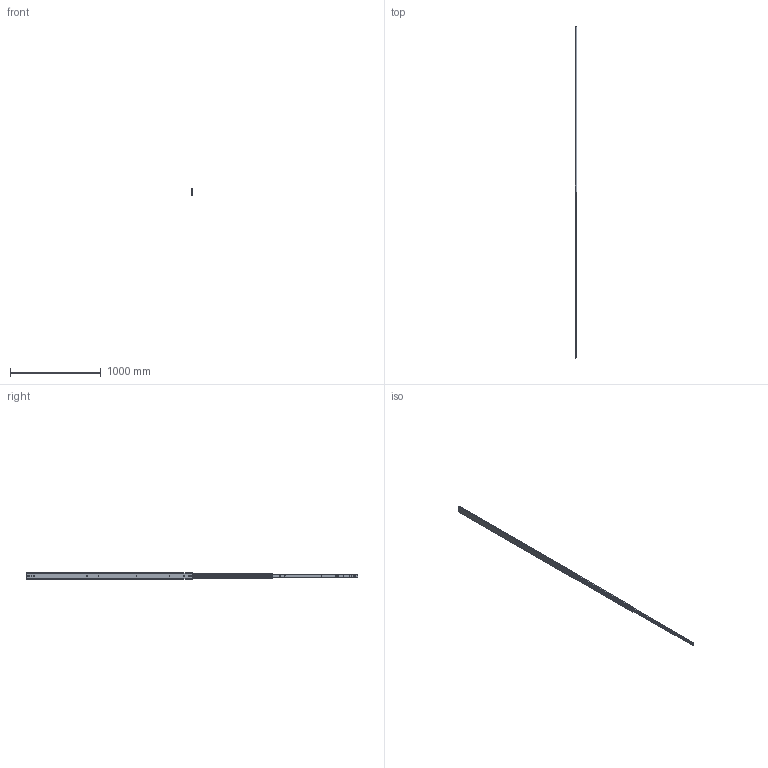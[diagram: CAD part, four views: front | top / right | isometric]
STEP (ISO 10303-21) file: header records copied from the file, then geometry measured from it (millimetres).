
FILE_DESCRIPTION(/* description */ ('Unknown'),/* implementation_level */ '2;1');
FILE_NAME(/* name */ '76J01-72 open',/* time_stamp */ '2024-07-30T15:48:30+08:00',/* author */ ('Unknown'),/* organization */ ('Unknown'),/* preprocessor_version */ 'ST-DEVELOPER v18.104',/* originating_system */ 'Solid Edge',/* authorisation */ 'Unknown');
FILE_SCHEMA (('AUTOMOTIVE_DESIGN {1 0 10303 214 3 1 1}'));
Length unit declared in the file: millimetre
Products named in the file (4): 76J01-72 open; 76J01 72 inch 內_0; 76J01 72 吋中_; 76J01 72 ¦Tà
Assembly tree (3 placements, depth 2):
  76J01-72 open
    76J01 72 inch 內_0
    76J01 72 吋中_
    76J01 72 ¦Tà
Bounding box: 19.3 x 3656.9 x 76.75 mm (x, y, z)
Volume: 1448788.7 mm3; surface area: 900005.5 mm2
Topology: 3 solids, 3 shells, 196 faces, 606 edges, 410 vertices
Faces by surface type: plane 104, cylinder 92
Full cylindrical faces by diameter (mm): 5.2 x16, 7.1 x2
Entity records: 7179 total; most frequent: CARTESIAN_POINT 1168, DIRECTION 1152, ORIENTED_EDGE 1140, EDGE_CURVE 570, VERTEX_POINT 392, LINE 384, VECTOR 384, AXIS2_PLACEMENT_3D 384
